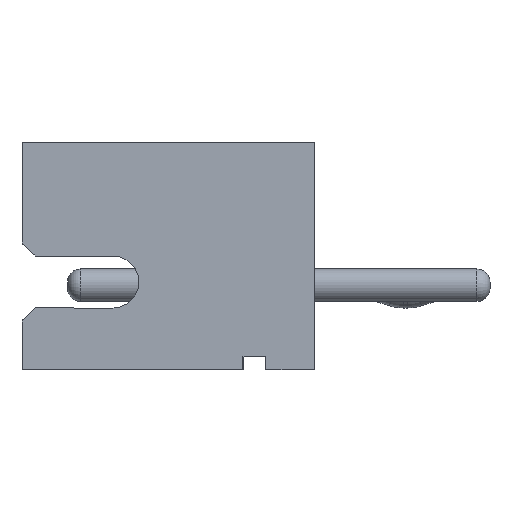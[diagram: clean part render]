
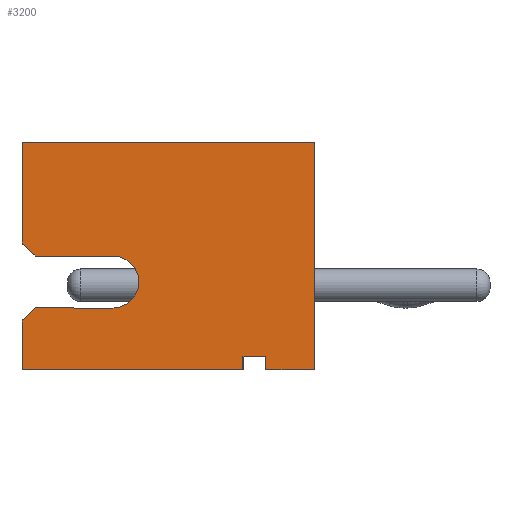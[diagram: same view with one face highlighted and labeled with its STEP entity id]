
A CAD part, left-side view. The second image highlights one B-rep face of the part: STEP entity #3200.
In plain terms, the highlighted planar face has unit normal (-1, 0, 0).
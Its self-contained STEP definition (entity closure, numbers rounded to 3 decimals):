
#2 = EDGE_CURVE ( 'NONE', #1854, #892, #214, .T. ) ;
#6 = EDGE_CURVE ( 'NONE', #1854, #806, #1873, .T. ) ;
#9 = LINE ( 'NONE', #1727, #423 ) ;
#31 = VECTOR ( 'NONE', #1578, 1000. ) ;
#54 = DIRECTION ( 'NONE',  ( 0., 0., -1. ) ) ;
#112 = CARTESIAN_POINT ( 'NONE',  ( -3., 4.3, -0.8 ) ) ;
#120 = LINE ( 'NONE', #3398, #199 ) ;
#123 = VERTEX_POINT ( 'NONE', #3082 ) ;
#199 = VECTOR ( 'NONE', #1228, 1000. ) ;
#214 = LINE ( 'NONE', #2421, #1232 ) ;
#221 = CARTESIAN_POINT ( 'NONE',  ( -3., 4.5, -1.75 ) ) ;
#258 = EDGE_CURVE ( 'NONE', #2261, #266, #1663, .T. ) ;
#266 = VERTEX_POINT ( 'NONE', #2011 ) ;
#290 = CARTESIAN_POINT ( 'NONE',  ( -3., 3.1, -0.8 ) ) ;
#392 = LINE ( 'NONE', #2535, #2888 ) ;
#419 = VECTOR ( 'NONE', #3230, 1000. ) ;
#423 = VECTOR ( 'NONE', #1458, 1000. ) ;
#440 = VECTOR ( 'NONE', #3442, 1000. ) ;
#441 = AXIS2_PLACEMENT_3D ( 'NONE', #929, #2589, #54 ) ;
#477 = LINE ( 'NONE', #2977, #31 ) ;
#520 = CARTESIAN_POINT ( 'NONE',  ( -3., 3.1, 0. ) ) ;
#537 = EDGE_CURVE ( 'NONE', #3341, #892, #9, .T. ) ;
#600 = VECTOR ( 'NONE', #2712, 1000. ) ;
#614 = LINE ( 'NONE', #2254, #2179 ) ;
#648 = ORIENTED_EDGE ( 'NONE', *, *, #6, .T. ) ;
#654 = LINE ( 'NONE', #1437, #3121 ) ;
#694 = CARTESIAN_POINT ( 'NONE',  ( -3., 1.1, -1.75 ) ) ;
#706 = ORIENTED_EDGE ( 'NONE', *, *, #1597, .T. ) ;
#806 = VERTEX_POINT ( 'NONE', #694 ) ;
#814 = CARTESIAN_POINT ( 'NONE',  ( -3., 0.75, -1.75 ) ) ;
#867 = DIRECTION ( 'NONE',  ( 0., 0., -1. ) ) ;
#875 = ORIENTED_EDGE ( 'NONE', *, *, #3275, .T. ) ;
#887 = DIRECTION ( 'NONE',  ( 0., -0.707, -0.707 ) ) ;
#892 = VERTEX_POINT ( 'NONE', #2898 ) ;
#929 = CARTESIAN_POINT ( 'NONE',  ( -3., 3.1, -0.4 ) ) ;
#1060 = CARTESIAN_POINT ( 'NONE',  ( -3., 0., 1.75 ) ) ;
#1151 = CARTESIAN_POINT ( 'NONE',  ( -3., 0., 1.75 ) ) ;
#1172 = EDGE_CURVE ( 'NONE', #2538, #2082, #2227, .T. ) ;
#1204 = CARTESIAN_POINT ( 'NONE',  ( -3., 4.5, 0.2 ) ) ;
#1228 = DIRECTION ( 'NONE',  ( 0., -1., 0. ) ) ;
#1232 = VECTOR ( 'NONE', #3287, 1000. ) ;
#1363 = EDGE_CURVE ( 'NONE', #266, #2016, #120, .T. ) ;
#1407 = DIRECTION ( 'NONE',  ( 0., 0., -1. ) ) ;
#1413 = LINE ( 'NONE', #2013, #2819 ) ;
#1437 = CARTESIAN_POINT ( 'NONE',  ( -3., 4.5, 1.75 ) ) ;
#1448 = ORIENTED_EDGE ( 'NONE', *, *, #1172, .T. ) ;
#1458 = DIRECTION ( 'NONE',  ( 0., 0.707, -0.707 ) ) ;
#1463 = LINE ( 'NONE', #1151, #440 ) ;
#1578 = DIRECTION ( 'NONE',  ( 0., 0., 1. ) ) ;
#1597 = EDGE_CURVE ( 'NONE', #3053, #3341, #2476, .T. ) ;
#1607 = VERTEX_POINT ( 'NONE', #1060 ) ;
#1638 = ORIENTED_EDGE ( 'NONE', *, *, #2871, .T. ) ;
#1663 = LINE ( 'NONE', #1204, #2677 ) ;
#1667 = CARTESIAN_POINT ( 'NONE',  ( -3., 0., 0. ) ) ;
#1727 = CARTESIAN_POINT ( 'NONE',  ( -3., 4.3, -0.8 ) ) ;
#1810 = CARTESIAN_POINT ( 'NONE',  ( -3., 3.1, -0.8 ) ) ;
#1854 = VERTEX_POINT ( 'NONE', #2115 ) ;
#1863 = EDGE_CURVE ( 'NONE', #806, #2673, #477, .T. ) ;
#1873 = LINE ( 'NONE', #221, #419 ) ;
#1916 = PLANE ( 'NONE',  #3482 ) ;
#2011 = CARTESIAN_POINT ( 'NONE',  ( -3., 4.3, 0. ) ) ;
#2013 = CARTESIAN_POINT ( 'NONE',  ( -3., 4.5, 1.75 ) ) ;
#2016 = VERTEX_POINT ( 'NONE', #520 ) ;
#2082 = VERTEX_POINT ( 'NONE', #3106 ) ;
#2115 = CARTESIAN_POINT ( 'NONE',  ( -3., 4.5, -1.75 ) ) ;
#2179 = VECTOR ( 'NONE', #2273, 1000. ) ;
#2227 = LINE ( 'NONE', #814, #3579 ) ;
#2245 = CIRCLE ( 'NONE', #441, 0.4 ) ;
#2254 = CARTESIAN_POINT ( 'NONE',  ( -3., 1.1, -1.55 ) ) ;
#2260 = ORIENTED_EDGE ( 'NONE', *, *, #258, .T. ) ;
#2261 = VERTEX_POINT ( 'NONE', #2670 ) ;
#2273 = DIRECTION ( 'NONE',  ( 0., -1., 0. ) ) ;
#2421 = CARTESIAN_POINT ( 'NONE',  ( -3., 4.5, 1.75 ) ) ;
#2476 = LINE ( 'NONE', #290, #600 ) ;
#2493 = ORIENTED_EDGE ( 'NONE', *, *, #2903, .T. ) ;
#2531 = DIRECTION ( 'NONE',  ( 0., 0., -1. ) ) ;
#2535 = CARTESIAN_POINT ( 'NONE',  ( -3., 4.5, -1.75 ) ) ;
#2538 = VERTEX_POINT ( 'NONE', #3477 ) ;
#2582 = ORIENTED_EDGE ( 'NONE', *, *, #537, .T. ) ;
#2589 = DIRECTION ( 'NONE',  ( 1., 0., 0. ) ) ;
#2670 = CARTESIAN_POINT ( 'NONE',  ( -3., 4.5, 0.2 ) ) ;
#2673 = VERTEX_POINT ( 'NONE', #2989 ) ;
#2677 = VECTOR ( 'NONE', #887, 1000. ) ;
#2712 = DIRECTION ( 'NONE',  ( 0., 1., 0. ) ) ;
#2748 = FACE_OUTER_BOUND ( 'NONE', #3250, .T. ) ;
#2779 = DIRECTION ( 'NONE',  ( 1., 0., 0. ) ) ;
#2819 = VECTOR ( 'NONE', #2531, 1000. ) ;
#2860 = EDGE_CURVE ( 'NONE', #3382, #1607, #1463, .T. ) ;
#2871 = EDGE_CURVE ( 'NONE', #2673, #2538, #614, .T. ) ;
#2877 = ORIENTED_EDGE ( 'NONE', *, *, #2, .F. ) ;
#2878 = DIRECTION ( 'NONE',  ( 0., -1., 0. ) ) ;
#2888 = VECTOR ( 'NONE', #2878, 1000. ) ;
#2898 = CARTESIAN_POINT ( 'NONE',  ( -3., 4.5, -1. ) ) ;
#2900 = DIRECTION ( 'NONE',  ( 0., 1., 0. ) ) ;
#2902 = ORIENTED_EDGE ( 'NONE', *, *, #2860, .T. ) ;
#2903 = EDGE_CURVE ( 'NONE', #123, #2261, #1413, .T. ) ;
#2977 = CARTESIAN_POINT ( 'NONE',  ( -3., 1.1, -1.75 ) ) ;
#2989 = CARTESIAN_POINT ( 'NONE',  ( -3., 1.1, -1.55 ) ) ;
#3053 = VERTEX_POINT ( 'NONE', #1810 ) ;
#3082 = CARTESIAN_POINT ( 'NONE',  ( -3., 4.5, 1.75 ) ) ;
#3106 = CARTESIAN_POINT ( 'NONE',  ( -3., 0.75, -1.75 ) ) ;
#3121 = VECTOR ( 'NONE', #2900, 1000. ) ;
#3200 = ADVANCED_FACE ( 'NONE', ( #2748 ), #1916, .F. ) ;
#3210 = ORIENTED_EDGE ( 'NONE', *, *, #1863, .T. ) ;
#3230 = DIRECTION ( 'NONE',  ( 0., -1., 0. ) ) ;
#3250 = EDGE_LOOP ( 'NONE', ( #875, #2493, #2260, #3286, #3571, #706, #2582, #2877, #648, #3210, #1638, #1448, #3396, #2902 ) ) ;
#3275 = EDGE_CURVE ( 'NONE', #1607, #123, #654, .T. ) ;
#3286 = ORIENTED_EDGE ( 'NONE', *, *, #1363, .T. ) ;
#3287 = DIRECTION ( 'NONE',  ( 0., 0., 1. ) ) ;
#3294 = EDGE_CURVE ( 'NONE', #2082, #3382, #392, .T. ) ;
#3299 = EDGE_CURVE ( 'NONE', #2016, #3053, #2245, .T. ) ;
#3341 = VERTEX_POINT ( 'NONE', #112 ) ;
#3382 = VERTEX_POINT ( 'NONE', #3507 ) ;
#3396 = ORIENTED_EDGE ( 'NONE', *, *, #3294, .T. ) ;
#3398 = CARTESIAN_POINT ( 'NONE',  ( -3., 4.3, 0. ) ) ;
#3442 = DIRECTION ( 'NONE',  ( 0., 0., 1. ) ) ;
#3477 = CARTESIAN_POINT ( 'NONE',  ( -3., 0.75, -1.55 ) ) ;
#3482 = AXIS2_PLACEMENT_3D ( 'NONE', #1667, #2779, #867 ) ;
#3507 = CARTESIAN_POINT ( 'NONE',  ( -3., 0., -1.75 ) ) ;
#3571 = ORIENTED_EDGE ( 'NONE', *, *, #3299, .T. ) ;
#3579 = VECTOR ( 'NONE', #1407, 1000. ) ;
